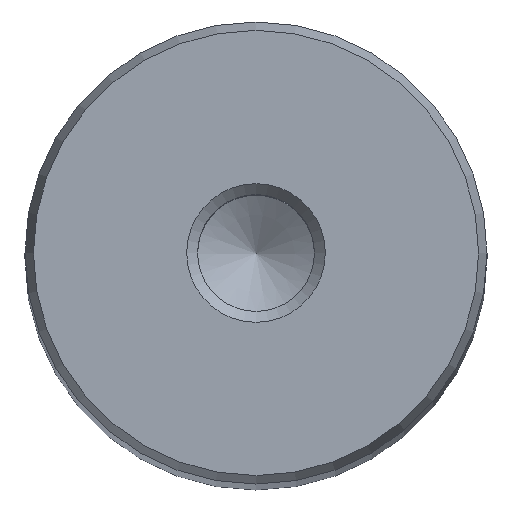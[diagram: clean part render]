
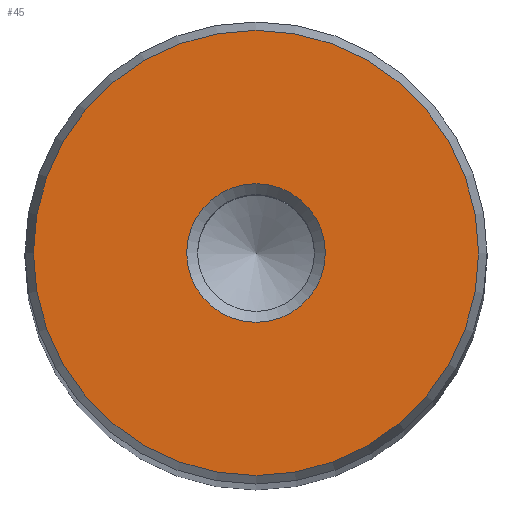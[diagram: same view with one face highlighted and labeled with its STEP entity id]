
A CAD part, top view. The second image highlights one B-rep face of the part: STEP entity #45.
In plain terms, the highlighted planar face has unit normal (0, 0, 1).
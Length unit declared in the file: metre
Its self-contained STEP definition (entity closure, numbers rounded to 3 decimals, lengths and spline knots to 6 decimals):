
#45 = ADVANCED_FACE( '', ( #96, #97 ), #98, .T. );
#96 = FACE_OUTER_BOUND( '', #155, .T. );
#97 = FACE_BOUND( '', #156, .T. );
#98 = PLANE( '', #157 );
#155 = EDGE_LOOP( '', ( #216 ) );
#156 = EDGE_LOOP( '', ( #217 ) );
#157 = AXIS2_PLACEMENT_3D( '', #218, #219, #220 );
#216 = ORIENTED_EDGE( '', *, *, #282, .T. );
#217 = ORIENTED_EDGE( '', *, *, #283, .T. );
#218 = CARTESIAN_POINT( '', ( 0., 0., 0.298 ) );
#219 = DIRECTION( '', ( 0., 0., 1. ) );
#220 = DIRECTION( '', ( 1., 0., 0. ) );
#282 = EDGE_CURVE( '', #313, #313, #314, .T. );
#283 = EDGE_CURVE( '', #315, #315, #316, .T. );
#313 = VERTEX_POINT( '', #350 );
#314 = CIRCLE( '', #351, 0.019272 );
#315 = VERTEX_POINT( '', #352 );
#316 = CIRCLE( '', #353, 0.006 );
#350 = CARTESIAN_POINT( '', ( 0.019272, 0., 0.298 ) );
#351 = AXIS2_PLACEMENT_3D( '', #388, #389, #390 );
#352 = CARTESIAN_POINT( '', ( 0.006, 0., 0.298 ) );
#353 = AXIS2_PLACEMENT_3D( '', #391, #392, #393 );
#388 = CARTESIAN_POINT( '', ( 0., 0., 0.298 ) );
#389 = DIRECTION( '', ( 0., 0., 1. ) );
#390 = DIRECTION( '', ( 1., 0., 0. ) );
#391 = CARTESIAN_POINT( '', ( 0., 0., 0.298 ) );
#392 = DIRECTION( '', ( 0., 0., -1. ) );
#393 = DIRECTION( '', ( 1., 0., 0. ) );
